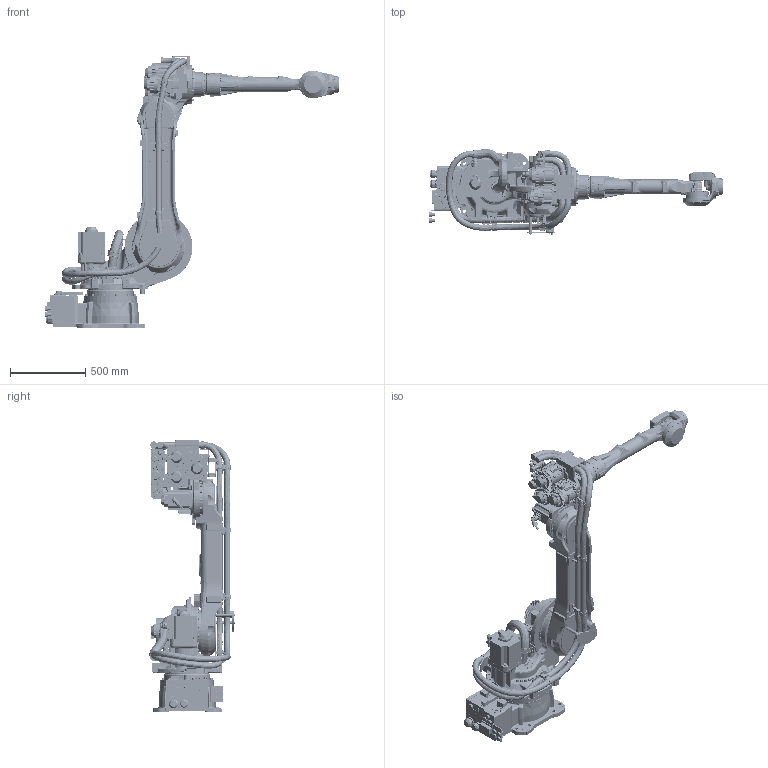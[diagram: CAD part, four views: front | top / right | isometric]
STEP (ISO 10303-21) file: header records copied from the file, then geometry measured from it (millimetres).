
FILE_DESCRIPTION((''),'2;1');
FILE_NAME('ASSY_VIEW_YR-1-06VX88-A00_ASM','2019-05-09T',('kataokah'),('YASKAWA ELECTRIC CORPORATION'),'PRO/ENGINEER BY PARAMETRIC TECHNOLOGY CORPORATION, 2015030','PRO/ENGINEER BY PARAMETRIC TECHNOLOGY CORPORATION, 2015030','');
FILE_SCHEMA(('CONFIG_CONTROL_DESIGN'));
Products named in the file (8): BASE_VIEW_YR-1-06VX88-A00; S_VIEW_YR-1-06VX88-A00; L_VIEW_YR-1-06VX88-A00; U_VIEW_YR-1-06VX88-A00; R_VIEW_YR-1-06VX88-A00; B_VIEW_YR-1-06VX88-A00; T_VIEW_YR-1-06VX88-A00; ASSY_VIEW_YR-1-06VX88-A00_ASM
Assembly tree (7 placements, depth 2):
  ASSY_VIEW_YR-1-06VX88-A00_ASM
    BASE_VIEW_YR-1-06VX88-A00
    S_VIEW_YR-1-06VX88-A00
    L_VIEW_YR-1-06VX88-A00
    U_VIEW_YR-1-06VX88-A00
    R_VIEW_YR-1-06VX88-A00
    B_VIEW_YR-1-06VX88-A00
    T_VIEW_YR-1-06VX88-A00
Bounding box: 1955.5 x 569.32 x 1811 mm (x, y, z)
Volume: 152958575.9 mm3; surface area: 7443936.7 mm2
Topology: 18 solids, 87 shells, 17379 faces, 45604 edges, 29019 vertices
Faces by surface type: plane 6871, cylinder 6559, bspline 1827, cone 1056, torus 850, sphere 150, extrusion 36, revolution 30
Entity records: 670724 total; most frequent: CARTESIAN_POINT 248007, ORIENTED_EDGE 90769, DIRECTION 86596, EDGE_CURVE 45493, AXIS2_PLACEMENT_3D 32467, VERTEX_POINT 29019, VECTOR 21632, LINE 21596
